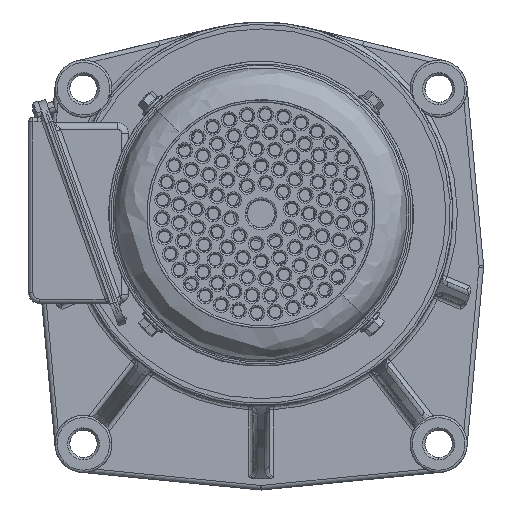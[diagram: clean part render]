
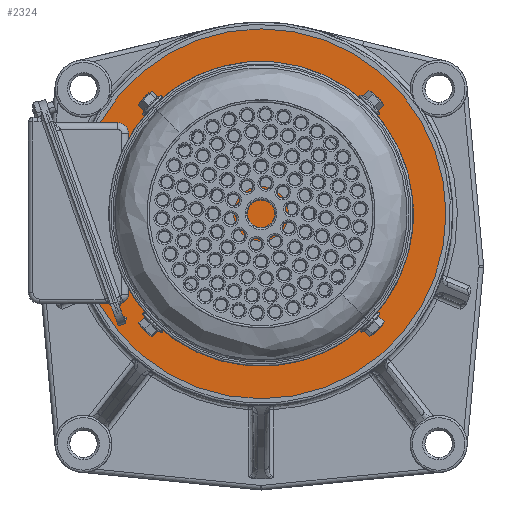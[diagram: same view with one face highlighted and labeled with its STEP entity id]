
A CAD part, front view. The second image highlights one B-rep face of the part: STEP entity #2324.
In plain terms, the highlighted planar face has unit normal (0, -1, 0) as drawn and (0, 1, 0) by its records, which use the part's own axes.
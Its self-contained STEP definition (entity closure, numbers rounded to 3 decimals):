
#2324 = ADVANCED_FACE ( 'NONE', ( #24456 ), #24513, .T. ) ;
#2325 = EDGE_LOOP ( 'NONE', ( #2326, #2327 ) ) ;
#2326 = ORIENTED_EDGE ( 'NONE', *, *, #2347, .T. ) ;
#2327 = ORIENTED_EDGE ( 'NONE', *, *, #2328, .T. ) ;
#2328 = EDGE_CURVE ( 'NONE', #2345, #2348, #24508, .T. ) ;
#2345 = VERTEX_POINT ( 'NONE', #24523 ) ;
#2347 = EDGE_CURVE ( 'NONE', #2348, #2345, #24522, .T. ) ;
#2348 = VERTEX_POINT ( 'NONE', #24517 ) ;
#24456 = FACE_OUTER_BOUND ( 'NONE', #2325, .T. ) ;
#24505 = DIRECTION ( 'NONE',  ( -1., 0., 0. ) ) ;
#24506 = DIRECTION ( 'NONE',  ( 0., 1., 0. ) ) ;
#24507 = AXIS2_PLACEMENT_3D ( 'NONE', #24514, #24506, #24505 ) ;
#24508 = CIRCLE ( 'NONE', #24507, 81. ) ;
#24509 = DIRECTION ( 'NONE',  ( 0., 0., 1. ) ) ;
#24510 = DIRECTION ( 'NONE',  ( 0., 1., 0. ) ) ;
#24511 = CARTESIAN_POINT ( 'NONE',  ( 0., 95., 0. ) ) ;
#24512 = AXIS2_PLACEMENT_3D ( 'NONE', #24511, #24510, #24509 ) ;
#24513 = PLANE ( 'NONE',  #24512 ) ;
#24514 = CARTESIAN_POINT ( 'NONE',  ( 0., 95., 23. ) ) ;
#24517 = CARTESIAN_POINT ( 'NONE',  ( 0., 95., 104. ) ) ;
#24518 = DIRECTION ( 'NONE',  ( -1., 0., 0. ) ) ;
#24519 = DIRECTION ( 'NONE',  ( 0., 1., 0. ) ) ;
#24520 = CARTESIAN_POINT ( 'NONE',  ( 0., 95., 23. ) ) ;
#24521 = AXIS2_PLACEMENT_3D ( 'NONE', #24520, #24519, #24518 ) ;
#24522 = CIRCLE ( 'NONE', #24521, 81. ) ;
#24523 = CARTESIAN_POINT ( 'NONE',  ( 0., 95., -58. ) ) ;
